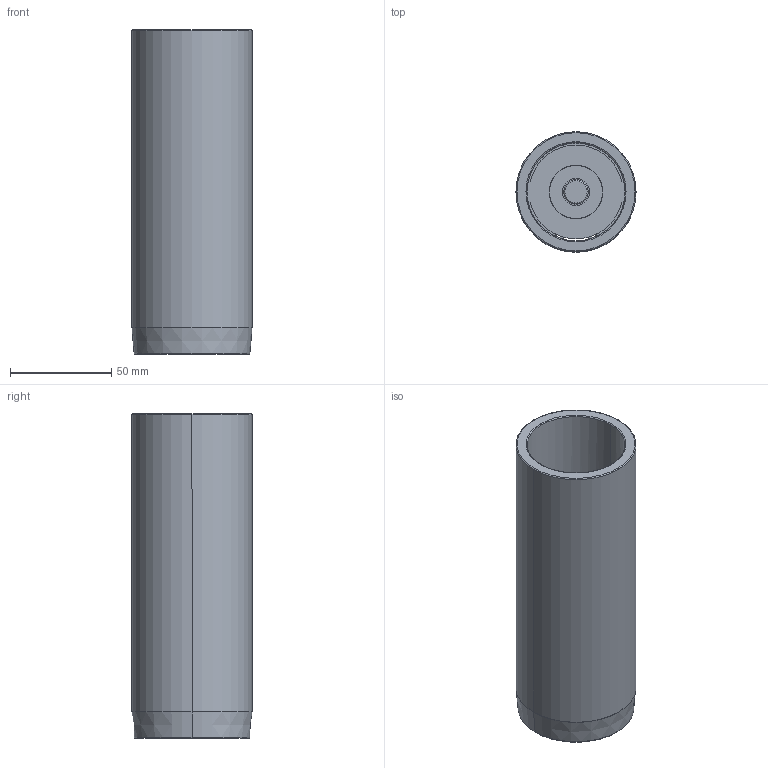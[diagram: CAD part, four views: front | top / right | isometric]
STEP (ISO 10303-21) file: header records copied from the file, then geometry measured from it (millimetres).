
FILE_DESCRIPTION((''),'2;1');
FILE_NAME('C12_048_160.stp','2009-01-28T14:14:41',(''),(''),'Mechanical Desktop 2009','Mechanical Desktop 2009',', , ');
FILE_SCHEMA(('CONFIG_CONTROL_DESIGN'));
Length unit declared in the file: millimetre
Products named in the file (2): Product; blmdl1
Assembly tree (1 placements, depth 2):
  Product
    blmdl1
Bounding box: 59.25 x 59.25 x 160 mm (x, y, z)
Volume: 152304.5 mm3; surface area: 65138.4 mm2
Topology: 5 solids, 5 shells, 79 faces, 200 edges, 134 vertices
Faces by surface type: cylinder 34, plane 29, torus 10, cone 6
Entity records: 2585 total; most frequent: DIRECTION 480, CARTESIAN_POINT 435, ORIENTED_EDGE 400, AXIS2_PLACEMENT_3D 203, EDGE_CURVE 200, VERTEX_POINT 134, CIRCLE 122, EDGE_LOOP 92
